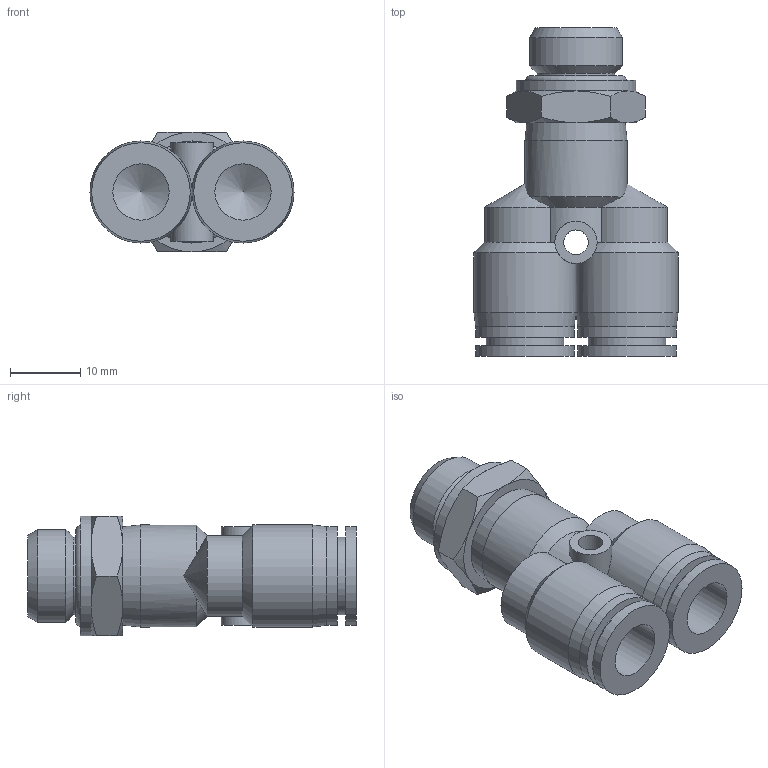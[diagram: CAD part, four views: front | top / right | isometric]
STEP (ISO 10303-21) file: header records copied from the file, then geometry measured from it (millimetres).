
FILE_DESCRIPTION(/* description */ (''),/* implementation_level */ '2;1');
FILE_NAME(/* name */ 'S:\_Tecnico\ArchivioUT\_Disegni3D ingombri\DISEGNI 3D per ingombri\RP\RP 74\RP741408.stp',/* time_stamp */ '2020-02-05T15:16:12+01:00',/* author */ ('UfficioTecnico'),/* organization */ (''),/* preprocessor_version */ 'ST-DEVELOPER v18',/* originating_system */ 'Autodesk Inventor 2020',/* authorisation */ '');
FILE_SCHEMA (('AUTOMOTIVE_DESIGN { 1 0 10303 214 3 1 1 }'));
Length unit declared in the file: millimetre
Products named in the file (1): RP741408
Bounding box: 29 x 46.68 x 17 mm (x, y, z)
Volume: 7444.1 mm3; surface area: 6113.8 mm2
Topology: 2 solids, 2 shells, 81 faces, 208 edges, 135 vertices
Faces by surface type: cone 27, cylinder 27, plane 25, torus 2
Full cylindrical faces by diameter (mm): 3.5 x1, 5.5 x1, 6 x2, 8 x2, 8.5 x1, 11 x4, 13.157 x1, 14 x4, 14.5 x3, 17 x1
Entity records: 2646 total; most frequent: CARTESIAN_POINT 654, DIRECTION 429, ORIENTED_EDGE 408, EDGE_CURVE 204, AXIS2_PLACEMENT_3D 191, VERTEX_POINT 135, CIRCLE 109, EDGE_LOOP 94
